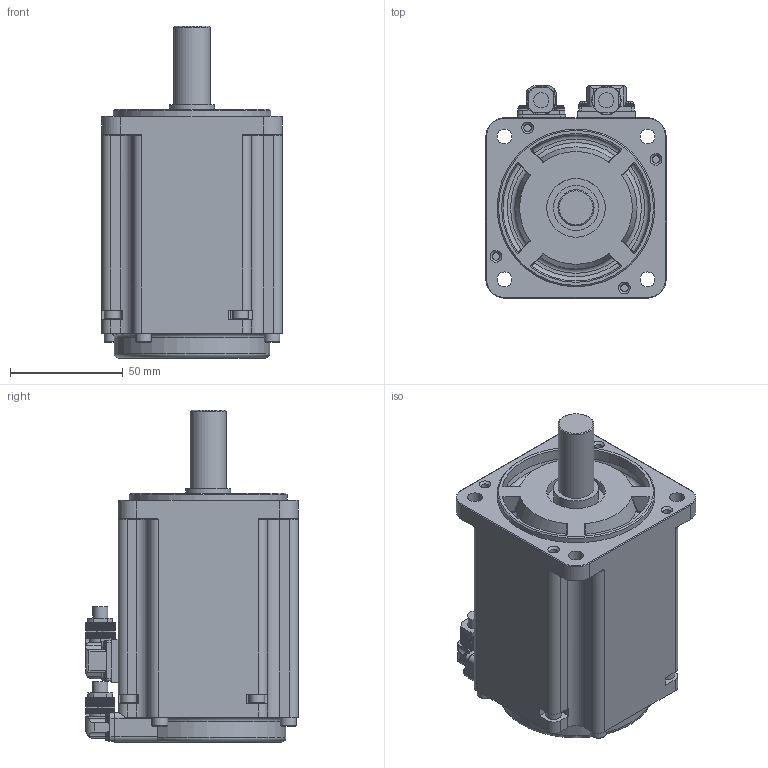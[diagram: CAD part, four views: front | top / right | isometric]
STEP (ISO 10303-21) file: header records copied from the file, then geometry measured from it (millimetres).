
FILE_DESCRIPTION((''),'2;1');
FILE_NAME('J:\_個人バックアップ\1790-保屋野\3D(R2AA08075FXP00M)\R2AA08075FXH00M.stp','2013-07-08T11:02:19',('HOYANO-CHIEKO'),(''),'Autodesk Inventor 2011','Autodesk Inventor 2011','');
FILE_SCHEMA(('AUTOMOTIVE_DESIGN { 1 0 10303 214 1 1 1 1 }'));
Length unit declared in the file: millimetre
Products named in the file (1): Part197
Bounding box: 80 x 94.4 x 147.3 mm (x, y, z)
Volume: 610699.6 mm3; surface area: 55628.9 mm2
Topology: 1 solids, 17 shells, 1061 faces, 2767 edges, 1789 vertices
Faces by surface type: plane 771, cylinder 214, bspline 32, cone 26, torus 18
Full cylindrical faces by diameter (mm): 1 x4, 2 x8, 3.3 x4, 3.5 x8, 4 x16, 4.4 x8, 4.5 x8, 6.6 x4, 6.7 x2, 7 x8, 16 x1, 20 x1, 26 x1, 70 x1
Entity records: 32670 total; most frequent: CARTESIAN_POINT 7229, ORIENTED_EDGE 5278, DIRECTION 5056, EDGE_CURVE 2639, VECTOR 1796, LINE 1796, VERTEX_POINT 1757, AXIS2_PLACEMENT_3D 1630
